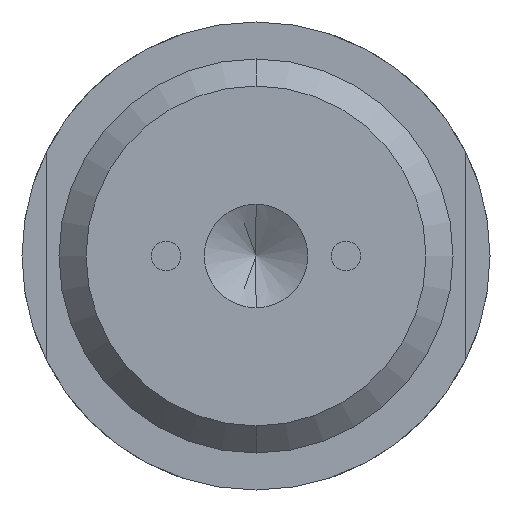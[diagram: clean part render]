
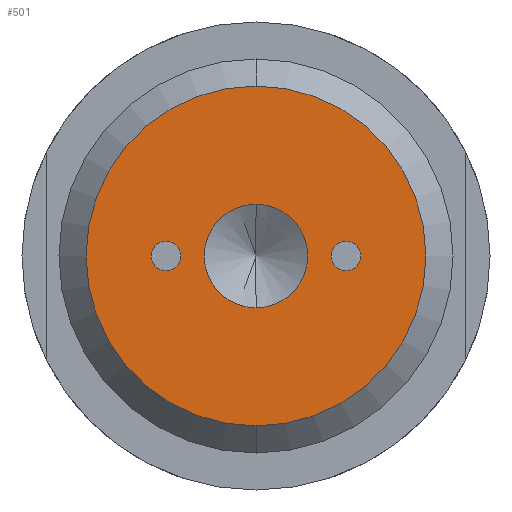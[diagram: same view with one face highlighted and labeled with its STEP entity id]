
A CAD part, front view. The second image highlights one B-rep face of the part: STEP entity #501.
In plain terms, the highlighted planar face has unit normal (0, -1, 0).
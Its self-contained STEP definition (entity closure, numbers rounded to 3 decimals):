
#18 = AXIS2_PLACEMENT_3D ( 'NONE', #722, #409, #771 ) ;
#23 = CARTESIAN_POINT ( 'NONE',  ( 0., 0., 2.1 ) ) ;
#43 = EDGE_CURVE ( 'NONE', #522, #630, #298, .T. ) ;
#54 = CARTESIAN_POINT ( 'NONE',  ( 3.65, 0., 0.6 ) ) ;
#60 = EDGE_CURVE ( 'NONE', #372, #549, #292, .T. ) ;
#64 = AXIS2_PLACEMENT_3D ( 'NONE', #327, #669, #769 ) ;
#83 = DIRECTION ( 'NONE',  ( 0., 0., -1. ) ) ;
#85 = EDGE_CURVE ( 'NONE', #549, #372, #272, .T. ) ;
#112 = CARTESIAN_POINT ( 'NONE',  ( 0., 0., 0. ) ) ;
#122 = EDGE_CURVE ( 'NONE', #630, #522, #267, .T. ) ;
#157 = FACE_BOUND ( 'NONE', #353, .T. ) ;
#158 = FACE_OUTER_BOUND ( 'NONE', #582, .T. ) ;
#160 = FACE_BOUND ( 'NONE', #731, .T. ) ;
#161 = DIRECTION ( 'NONE',  ( 0., -1., 0. ) ) ;
#167 = FACE_BOUND ( 'NONE', #562, .T. ) ;
#178 = CIRCLE ( 'NONE', #208, 0.6 ) ;
#208 = AXIS2_PLACEMENT_3D ( 'NONE', #361, #557, #625 ) ;
#215 = CIRCLE ( 'NONE', #64, 0.6 ) ;
#217 = EDGE_CURVE ( 'NONE', #536, #463, #236, .T. ) ;
#223 = CIRCLE ( 'NONE', #336, 0.6 ) ;
#236 = CIRCLE ( 'NONE', #673, 0.6 ) ;
#247 = AXIS2_PLACEMENT_3D ( 'NONE', #710, #326, #667 ) ;
#261 = EDGE_CURVE ( 'NONE', #693, #688, #223, .T. ) ;
#267 = CIRCLE ( 'NONE', #247, 6.9 ) ;
#272 = CIRCLE ( 'NONE', #714, 2.1 ) ;
#273 = EDGE_CURVE ( 'NONE', #463, #536, #215, .T. ) ;
#292 = CIRCLE ( 'NONE', #514, 2.1 ) ;
#298 = CIRCLE ( 'NONE', #18, 6.9 ) ;
#309 = AXIS2_PLACEMENT_3D ( 'NONE', #681, #349, #412 ) ;
#326 = DIRECTION ( 'NONE',  ( 0., -1., 0. ) ) ;
#327 = CARTESIAN_POINT ( 'NONE',  ( -3.65, 0., 0. ) ) ;
#329 = DIRECTION ( 'NONE',  ( 0., 0., -1. ) ) ;
#336 = AXIS2_PLACEMENT_3D ( 'NONE', #763, #766, #329 ) ;
#346 = CARTESIAN_POINT ( 'NONE',  ( 0., 0., -6.9 ) ) ;
#349 = DIRECTION ( 'NONE',  ( 0., 1., 0. ) ) ;
#353 = EDGE_LOOP ( 'NONE', ( #539, #733 ) ) ;
#361 = CARTESIAN_POINT ( 'NONE',  ( 3.65, 0., 0. ) ) ;
#371 = CARTESIAN_POINT ( 'NONE',  ( 3.65, 0., -0.6 ) ) ;
#372 = VERTEX_POINT ( 'NONE', #23 ) ;
#391 = EDGE_CURVE ( 'NONE', #688, #693, #178, .T. ) ;
#409 = DIRECTION ( 'NONE',  ( 0., -1., 0. ) ) ;
#410 = DIRECTION ( 'NONE',  ( 0., -1., 0. ) ) ;
#412 = DIRECTION ( 'NONE',  ( 0., 0., 1. ) ) ;
#416 = CARTESIAN_POINT ( 'NONE',  ( 0., 0., 0. ) ) ;
#449 = CARTESIAN_POINT ( 'NONE',  ( -3.65, 0., 0.6 ) ) ;
#463 = VERTEX_POINT ( 'NONE', #752 ) ;
#483 = CARTESIAN_POINT ( 'NONE',  ( -3.65, 0., 0. ) ) ;
#501 = ADVANCED_FACE ( 'NONE', ( #160, #157, #167, #158 ), #729, .F. ) ;
#514 = AXIS2_PLACEMENT_3D ( 'NONE', #112, #585, #525 ) ;
#522 = VERTEX_POINT ( 'NONE', #554 ) ;
#525 = DIRECTION ( 'NONE',  ( 0., 0., -1. ) ) ;
#536 = VERTEX_POINT ( 'NONE', #449 ) ;
#539 = ORIENTED_EDGE ( 'NONE', *, *, #273, .F. ) ;
#549 = VERTEX_POINT ( 'NONE', #702 ) ;
#554 = CARTESIAN_POINT ( 'NONE',  ( 0., 0., 6.9 ) ) ;
#557 = DIRECTION ( 'NONE',  ( 0., -1., 0. ) ) ;
#562 = EDGE_LOOP ( 'NONE', ( #709, #754 ) ) ;
#582 = EDGE_LOOP ( 'NONE', ( #774, #682 ) ) ;
#585 = DIRECTION ( 'NONE',  ( 0., -1., 0. ) ) ;
#625 = DIRECTION ( 'NONE',  ( 0., 0., -1. ) ) ;
#630 = VERTEX_POINT ( 'NONE', #346 ) ;
#667 = DIRECTION ( 'NONE',  ( 0., 0., -1. ) ) ;
#669 = DIRECTION ( 'NONE',  ( 0., -1., 0. ) ) ;
#673 = AXIS2_PLACEMENT_3D ( 'NONE', #483, #161, #83 ) ;
#681 = CARTESIAN_POINT ( 'NONE',  ( 0., 0., 0. ) ) ;
#682 = ORIENTED_EDGE ( 'NONE', *, *, #122, .T. ) ;
#688 = VERTEX_POINT ( 'NONE', #54 ) ;
#693 = VERTEX_POINT ( 'NONE', #371 ) ;
#702 = CARTESIAN_POINT ( 'NONE',  ( 0., 0., -2.1 ) ) ;
#709 = ORIENTED_EDGE ( 'NONE', *, *, #85, .F. ) ;
#710 = CARTESIAN_POINT ( 'NONE',  ( 0., 0., 0. ) ) ;
#714 = AXIS2_PLACEMENT_3D ( 'NONE', #416, #410, #776 ) ;
#715 = ORIENTED_EDGE ( 'NONE', *, *, #391, .F. ) ;
#722 = CARTESIAN_POINT ( 'NONE',  ( 0., 0., 0. ) ) ;
#729 = PLANE ( 'NONE',  #309 ) ;
#731 = EDGE_LOOP ( 'NONE', ( #759, #715 ) ) ;
#733 = ORIENTED_EDGE ( 'NONE', *, *, #217, .F. ) ;
#752 = CARTESIAN_POINT ( 'NONE',  ( -3.65, 0., -0.6 ) ) ;
#754 = ORIENTED_EDGE ( 'NONE', *, *, #60, .F. ) ;
#759 = ORIENTED_EDGE ( 'NONE', *, *, #261, .F. ) ;
#763 = CARTESIAN_POINT ( 'NONE',  ( 3.65, 0., 0. ) ) ;
#766 = DIRECTION ( 'NONE',  ( 0., -1., 0. ) ) ;
#769 = DIRECTION ( 'NONE',  ( 0., 0., -1. ) ) ;
#771 = DIRECTION ( 'NONE',  ( 0., 0., -1. ) ) ;
#774 = ORIENTED_EDGE ( 'NONE', *, *, #43, .T. ) ;
#776 = DIRECTION ( 'NONE',  ( 0., 0., -1. ) ) ;
